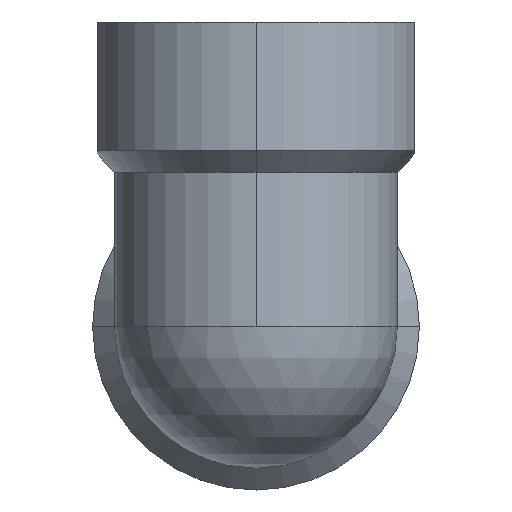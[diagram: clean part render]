
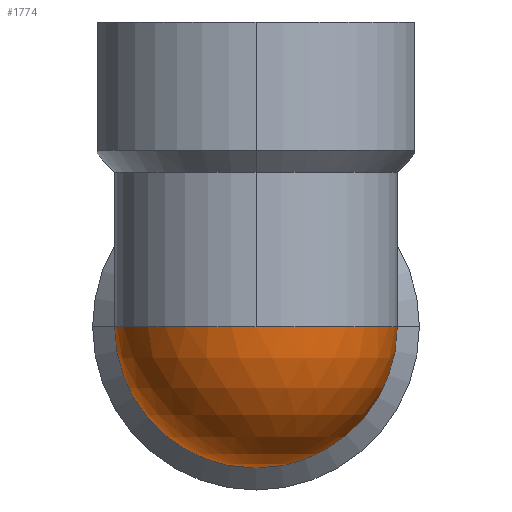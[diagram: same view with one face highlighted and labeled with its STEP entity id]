
A CAD part, left-side view. The second image highlights one B-rep face of the part: STEP entity #1774.
In plain terms, the highlighted spherical face has radius 16 mm.
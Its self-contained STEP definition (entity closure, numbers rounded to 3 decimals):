
#526 = CARTESIAN_POINT ( 'NONE',  ( -39., 16., 0. ) ) ;
#527 = DIRECTION ( 'NONE',  ( 1., 0., 0. ) ) ;
#528 = DIRECTION ( 'NONE',  ( 0., 0., 1. ) ) ;
#539 = CARTESIAN_POINT ( 'NONE',  ( -39., 0., 0. ) ) ;
#540 = AXIS2_PLACEMENT_3D ( 'NONE', #539, #528, #527 ) ;
#543 = CIRCLE ( 'NONE', #540, 16. ) ;
#637 = DIRECTION ( 'NONE',  ( 0., 1., 0. ) ) ;
#638 = DIRECTION ( 'NONE',  ( 1., 0., 0. ) ) ;
#639 = CARTESIAN_POINT ( 'NONE',  ( -39., 0., 0. ) ) ;
#640 = AXIS2_PLACEMENT_3D ( 'NONE', #639, #638, #637 ) ;
#641 = CIRCLE ( 'NONE', #640, 16. ) ;
#713 = CARTESIAN_POINT ( 'NONE',  ( -39., -16., 0. ) ) ;
#775 = CARTESIAN_POINT ( 'NONE',  ( -55., 0., 0. ) ) ;
#787 = CARTESIAN_POINT ( 'NONE',  ( -39., 0., 0. ) ) ;
#792 = FACE_OUTER_BOUND ( 'NONE', #1775, .T. ) ;
#843 = DIRECTION ( 'NONE',  ( 1., 0., 0. ) ) ;
#844 = DIRECTION ( 'NONE',  ( 0., 0., 1. ) ) ;
#845 = CARTESIAN_POINT ( 'NONE',  ( -39., 0., 0. ) ) ;
#846 = AXIS2_PLACEMENT_3D ( 'NONE', #845, #844, #843 ) ;
#847 = CIRCLE ( 'NONE', #846, 16. ) ;
#848 = DIRECTION ( 'NONE',  ( 0., 1., 0. ) ) ;
#849 = DIRECTION ( 'NONE',  ( 0., 0., 1. ) ) ;
#850 = AXIS2_PLACEMENT_3D ( 'NONE', #787, #849, #848 ) ;
#851 = SPHERICAL_SURFACE ( 'NONE', #850, 16. ) ;
#1584 = EDGE_CURVE ( 'NONE', #1590, #1742, #543, .T. ) ;
#1590 = VERTEX_POINT ( 'NONE', #526 ) ;
#1622 = EDGE_CURVE ( 'NONE', #1710, #1590, #641, .T. ) ;
#1710 = VERTEX_POINT ( 'NONE', #713 ) ;
#1742 = VERTEX_POINT ( 'NONE', #775 ) ;
#1774 = ADVANCED_FACE ( 'NONE', ( #792 ), #851, .T. ) ;
#1775 = EDGE_LOOP ( 'NONE', ( #1776, #1777, #1779 ) ) ;
#1776 = ORIENTED_EDGE ( 'NONE', *, *, #1622, .F. ) ;
#1777 = ORIENTED_EDGE ( 'NONE', *, *, #1778, .F. ) ;
#1778 = EDGE_CURVE ( 'NONE', #1742, #1710, #847, .T. ) ;
#1779 = ORIENTED_EDGE ( 'NONE', *, *, #1584, .F. ) ;
